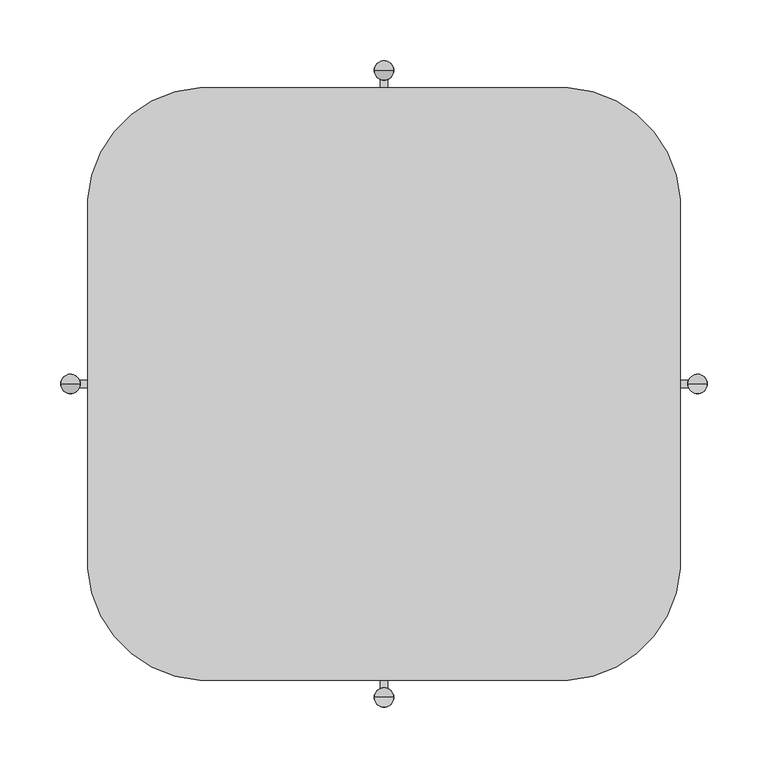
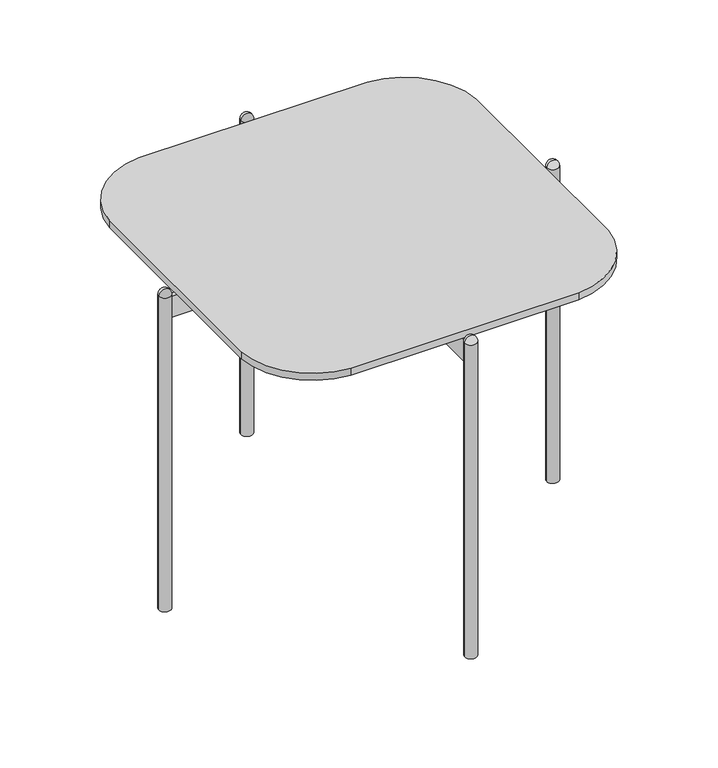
"""IFC4 building model written with IfcOpenShell, lengths in millimetres: furniture geometry, RECTANGULAR TABLE_H=45 : EI145B055050A_G."""

import ifcopenshell
import ifcopenshell.guid

model = None  # the IFC model being written
_history = None  # IfcOwnerHistory: only IFC2X3 demands one
_inside = {}  # id of a spatial element -> (the spatial element, [elements in it])
_under = {}  # id of a project, library or spatial element -> (it, [spatial elements below it])
_declared = {}  # id of a project -> (the project, [libraries it declares])
_typed = {}  # id of a type object -> (the type object, [elements of that type])
_made_of = {}  # id of a material, layer set ... -> (it, [elements and type objects made of it])


def new_model(schema):
    """Start an empty IFC model of exactly this schema.

    Asked for "IFC4X3", IfcOpenShell would pick the latest addendum, in which some entities
    have other attributes; the version numbers below select the first issue.
    IFC2X3 requires an IfcOwnerHistory on every rooted entity: one is made here for all.
    """
    global model, _history
    if schema == "IFC4X3":
        model = ifcopenshell.file(schema_version=(4, 3, 0, 0))
    else:
        model = ifcopenshell.file(schema=schema)
    _inside.clear()
    _under.clear()
    _declared.clear()
    _typed.clear()
    _made_of.clear()
    _history = None
    if model.schema == "IFC2X3":
        org = make("IfcOrganization", Name="unknown")
        user = make(
            "IfcPersonAndOrganization",
            ThePerson=make("IfcPerson", FamilyName="unknown"),
            TheOrganization=org,
        )
        app = make(
            "IfcApplication",
            ApplicationDeveloper=org,
            Version="unknown",
            ApplicationFullName="unknown",
            ApplicationIdentifier="unknown",
        )
        _history = make(
            "IfcOwnerHistory",
            OwningUser=user,
            OwningApplication=app,
            ChangeAction="ADDED",
            CreationDate=0,
        )
    return model


def make(cls, **values):
    """One entity of the class cls with the attributes given. An attribute that is None is left unset."""
    return model.create_entity(
        cls, **{name: value for name, value in values.items() if value is not None}
    )


def rooted(cls, **values):
    """An entity with a GlobalId (a new one), such as an element, a storey or a relation."""
    return make(cls, GlobalId=ifcopenshell.guid.new(), OwnerHistory=_history, **values)


def si_unit(unit_type, name, prefix=None):
    """IfcSIUnit, for example si_unit("LENGTHUNIT", "METRE", prefix="MILLI")."""
    return make("IfcSIUnit", UnitType=unit_type, Prefix=prefix, Name=name)


def assignment(units):
    """IfcUnitAssignment: the units of a project."""
    return None if units is None else make("IfcUnitAssignment", Units=units)


def point(xyz):
    """IfcCartesianPoint."""
    return None if xyz is None else make("IfcCartesianPoint", Coordinates=xyz)


def direction(xyz):
    """IfcDirection."""
    return None if xyz is None else make("IfcDirection", DirectionRatios=xyz)


def frame(location, z_axis=None, x_axis=None):
    """IfcAxis2Placement3D, a coordinate frame: its origin and axes. An axis left out is left unset."""
    return make(
        "IfcAxis2Placement3D",
        Location=point(location),
        Axis=direction(z_axis),
        RefDirection=direction(x_axis),
    )


def frame_2d(location, x_axis=None):
    """IfcAxis2Placement2D, a coordinate frame in the plane: its origin and x axis."""
    return make(
        "IfcAxis2Placement2D", Location=point(location), RefDirection=direction(x_axis)
    )


def origin():
    """The frame at (0, 0, 0) with its axes left unset."""
    return frame((0.0, 0.0, 0.0))


def origin_with_axes():
    """The frame at (0, 0, 0) with the z axis (0, 0, 1) and the x axis (1, 0, 0) written out."""
    return frame((0.0, 0.0, 0.0), z_axis=(0.0, 0.0, 1.0), x_axis=(1.0, 0.0, 0.0))


def origin_2d():
    """The frame at (0, 0) in the plane with its x axis left unset."""
    return frame_2d((0.0, 0.0))


def place(relative_to, where):
    """IfcLocalPlacement: puts the frame where relative to a parent placement (None: the world)."""
    return make(
        "IfcLocalPlacement", PlacementRelTo=relative_to, RelativePlacement=where
    )


def context(
    kind, dimensions, precision=None, world=None, true_north=None, identifier=None
):
    """IfcGeometricRepresentationContext, for example the 3D "Model" context."""
    return make(
        "IfcGeometricRepresentationContext",
        ContextIdentifier=identifier,
        ContextType=kind,
        CoordinateSpaceDimension=dimensions,
        Precision=precision,
        WorldCoordinateSystem=world,
        TrueNorth=true_north,
    )


def project(units=None, contexts=None):
    """IfcProject with its units and contexts."""
    return rooted(
        "IfcProject",
        Name="project",
        RepresentationContexts=contexts,
        UnitsInContext=assignment(units),
    )


def spatial(cls, under=None, at=None, **own):
    """A site, building, storey or space (cls), placed at a placement, below another one or the project."""
    s = rooted(cls, ObjectPlacement=at, **own)
    if under is not None:
        _under.setdefault(under.id(), (under, []))[1].append(s)
    return s


def polyline(points):
    """IfcPolyline through the points."""
    return make("IfcPolyline", Points=[point(p) for p in points])


def circle_curve(where, radius):
    """IfcCircle in the frame where."""
    return make("IfcCircle", Position=where, Radius=radius)


def ellipse_curve(where, semi_axis1, semi_axis2):
    """IfcEllipse in the frame where."""
    return make(
        "IfcEllipse", Position=where, SemiAxis1=semi_axis1, SemiAxis2=semi_axis2
    )


def trimmed(basis, trim1, trim2, sense, master):
    """IfcTrimmedCurve: the piece of a basis curve between two trims."""
    return make(
        "IfcTrimmedCurve",
        BasisCurve=basis,
        Trim1=trim1,
        Trim2=trim2,
        SenseAgreement=sense,
        MasterRepresentation=master,
    )


def segment(curve, same_sense, transition):
    """IfcCompositeCurveSegment."""
    return make(
        "IfcCompositeCurveSegment",
        Transition=transition,
        SameSense=same_sense,
        ParentCurve=curve,
    )


def composite_curve(segments, self_intersect=None):
    """IfcCompositeCurve: segments joined end to end."""
    return make("IfcCompositeCurve", Segments=segments, SelfIntersect=self_intersect)


def outline(outer, holes=None, kind="AREA"):
    """IfcArbitraryClosedProfileDef: a profile drawn as a closed curve; with holes, ...WithVoids."""
    if holes is None:
        return make("IfcArbitraryClosedProfileDef", ProfileType=kind, OuterCurve=outer)
    return make(
        "IfcArbitraryProfileDefWithVoids",
        ProfileType=kind,
        OuterCurve=outer,
        InnerCurves=holes,
    )


def extrude(swept, where, along, depth):
    """IfcExtrudedAreaSolid: the profile swept, set in the frame where, extruded along a direction by depth."""
    return make(
        "IfcExtrudedAreaSolid",
        SweptArea=swept,
        Position=where,
        ExtrudedDirection=direction(along),
        Depth=depth,
    )


def shape(context_of_items, identifier, shape_type, items):
    """IfcShapeRepresentation: the items that make up one representation, for example the "Body"."""
    return make(
        "IfcShapeRepresentation",
        ContextOfItems=context_of_items,
        RepresentationIdentifier=identifier,
        RepresentationType=shape_type,
        Items=items,
    )


def source(mapping_origin, context_of_items, identifier, shape_type, items):
    """IfcRepresentationMap: a shape defined once, which mapped items show again and again."""
    return make(
        "IfcRepresentationMap",
        MappingOrigin=mapping_origin,
        MappedRepresentation=shape(context_of_items, identifier, shape_type, items),
    )


def transform(
    local_origin,
    x_axis=None,
    y_axis=None,
    z_axis=None,
    scale=None,
    scale2=None,
    scale3=None,
    uniform=True,
):
    """IfcCartesianTransformationOperator3D, or its non-uniform kind. x_axis, y_axis, z_axis: its Axis1, 2, 3."""
    if uniform:
        return make(
            "IfcCartesianTransformationOperator3D",
            Axis1=direction(x_axis),
            Axis2=direction(y_axis),
            LocalOrigin=point(local_origin),
            Scale=scale,
            Axis3=direction(z_axis),
        )
    return make(
        "IfcCartesianTransformationOperator3DnonUniform",
        Axis1=direction(x_axis),
        Axis2=direction(y_axis),
        LocalOrigin=point(local_origin),
        Scale=scale,
        Axis3=direction(z_axis),
        Scale2=scale2,
        Scale3=scale3,
    )


def mapped(mapping_source, mapping_target):
    """IfcMappedItem: shows the shape of a source again, moved by a transform."""
    return make(
        "IfcMappedItem", MappingSource=mapping_source, MappingTarget=mapping_target
    )


def made_of(thing, what):
    """Note that an element or type object is made of a material, layer set ...; save() writes the relation."""
    if what is not None:
        _made_of.setdefault(what.id(), (what, []))[1].append(thing)
    return thing


def element(
    cls,
    number,
    at=None,
    inside=None,
    cuts=None,
    type_object=None,
    material=None,
    context=None,
    identifier="Body",
    shape_type=None,
    held_by="IfcProductDefinitionShape",
    body=None,
    shapes=None,
    **own,
):
    """One element of the class cls, such as IfcWall. Its Tag is "e" and its number.

    at: its placement. inside: the storey or other place that contains it. cuts: it is an
    opening in that element (IfcRelVoidsElement). A single representation is given by context,
    identifier, shape_type and body (its items); several are given by shapes. held_by: the class
    of the entity that holds the representations. save() writes the other relations.
    """
    e = rooted(cls, Tag="e%d" % number, ObjectPlacement=at, **own)
    if body is not None:
        shapes = [shape(context, identifier, shape_type, body)]
    if shapes is not None:
        e.Representation = make(held_by, Representations=shapes)
    if inside is not None:
        _inside.setdefault(inside.id(), (inside, []))[1].append(e)
    if cuts is not None:
        rooted(
            "IfcRelVoidsElement", RelatingBuildingElement=cuts, RelatedOpeningElement=e
        )
    if type_object is not None:
        _typed.setdefault(type_object.id(), (type_object, []))[1].append(e)
    return made_of(e, material)


def aggregate(whole, parts):
    """IfcRelAggregates: a whole, such as a stair, and the parts it consists of."""
    return rooted("IfcRelAggregates", RelatingObject=whole, RelatedObjects=parts)


def save(model, path):
    """Write the relations noted so far, then the file.

    IfcRelAggregates (storeys below a building ...), IfcRelContainedInSpatialStructure (elements
    in a storey), IfcRelDefinesByType, IfcRelAssociatesMaterial and IfcRelDeclares: one each for
    every whole, place, type object, material and project.
    """
    for whole, parts in _under.values():
        aggregate(whole, parts)
    for where, things in _inside.values():
        rooted(
            "IfcRelContainedInSpatialStructure",
            RelatedElements=things,
            RelatingStructure=where,
        )
    for kind, things in _typed.values():
        rooted("IfcRelDefinesByType", RelatedObjects=things, RelatingType=kind)
    for what, things in _made_of.values():
        rooted("IfcRelAssociatesMaterial", RelatedObjects=things, RelatingMaterial=what)
    for by, libraries in _declared.values():
        rooted("IfcRelDeclares", RelatingContext=by, RelatedDefinitions=libraries)
    model.write(path)


def plane_surface(at):
    """IfcPlane: the flat surface through the origin of the frame at, square to its z axis."""
    return make("IfcPlane", Position=at)


def revolved_surface(curve, axis_point, axis_direction):
    """IfcSurfaceOfRevolution: the curve turned about the line through axis_point along axis_direction."""
    return make(
        "IfcSurfaceOfRevolution",
        SweptCurve=make("IfcArbitraryOpenProfileDef", ProfileType="CURVE", Curve=curve),
        AxisPosition=make("IfcAxis1Placement", Location=point(axis_point), Axis=direction(axis_direction)),
    )


def advanced_brep(points, edges, surfaces, faces):
    """IfcAdvancedBrep: a solid bounded by faces that lie on surfaces and meet in shared edges.

    An edge is (start, end): straight between two places in points (the first is 0);
    or (start, end, curve); or (start, end, curve, False) where it runs against its curve.
    A face is (place in surfaces, loops), or (place, loops, False) where it looks against
    its surface's normal. A loop lists edges by number (the first is 1), with a minus sign
    where the edge is run from its end to its start. The first loop is the outer one.
    """
    corners = [point(p) for p in points]
    vertices = [make("IfcVertexPoint", VertexGeometry=c) for c in corners]
    made = []
    for start, end, *more in edges:
        made.append(
            make(
                "IfcEdgeCurve",
                EdgeStart=vertices[start],
                EdgeEnd=vertices[end],
                EdgeGeometry=more[0] if more else make("IfcPolyline", Points=[corners[start], corners[end]]),
                SameSense=more[1] if len(more) > 1 else True,
            )
        )
    hull = []
    for where, loops, *sense in faces:
        bounds = []
        for j, loop in enumerate(loops):
            ring = [make("IfcOrientedEdge", EdgeElement=made[abs(k) - 1], Orientation=k > 0) for k in loop]
            bounds.append(
                make(
                    "IfcFaceOuterBound" if j == 0 else "IfcFaceBound",
                    Bound=make("IfcEdgeLoop", EdgeList=ring),
                    Orientation=True,
                )
            )
        hull.append(make("IfcAdvancedFace", Bounds=bounds, FaceSurface=surfaces[where], SameSense=sense[0] if sense else True))
    return make("IfcAdvancedBrep", Outer=make("IfcClosedShell", CfsFaces=hull))


def furniture_c5b88fe7(model_context):
    return source(origin(), model_context, "Body", "SolidModel", [
        extrude(outline(composite_curve([segment(trimmed(circle_curve(frame_2d((-145.119559, 145.119559)), 99.0), [point((-243.8958721, 151.7708721))], [point((-151.7708721, 243.8958722))], False, "CARTESIAN"), True, "CONTINUOUS"), segment(trimmed(circle_curve(frame_2d((0.0, -2010.0000004)), 2259.0000004), [point((-151.7708721, 243.8958722))], [point((151.7708721, 243.8958722))], False, "CARTESIAN"), True, "CONTINUOUS"), segment(trimmed(circle_curve(frame_2d((145.119559, 145.119559)), 99.0000001), [point((151.7708721, 243.8958722))], [point((243.8958722, 151.7708721))], False, "CARTESIAN"), True, "CONTINUOUS"), segment(trimmed(circle_curve(frame_2d((-2010.0000004, 0.0)), 2259.0000004), [point((243.8958722, 151.7708721))], [point((243.8958722, -151.7708721))], False, "CARTESIAN"), True, "CONTINUOUS"), segment(trimmed(circle_curve(frame_2d((145.119559, -145.1195589)), 99.0), [point((243.8958722, -151.7708721))], [point((151.7708721, -243.8958721))], False, "CARTESIAN"), True, "CONTINUOUS"), segment(trimmed(circle_curve(frame_2d((0.0, 2010.0000004)), 2259.0000004), [point((151.7708721, -243.8958721))], [point((-151.7708721, -243.8958721))], False, "CARTESIAN"), True, "CONTINUOUS"), segment(trimmed(circle_curve(frame_2d((-145.1195589, -145.1195589)), 99.0), [point((-151.7708721, -243.8958721))], [point((-243.8958721, -151.7708721))], False, "CARTESIAN"), True, "CONTINUOUS"), segment(trimmed(circle_curve(frame_2d((2010.0000004, 0.0)), 2259.0000004), [point((-243.8958721, -151.7708721))], [point((-243.8958721, 151.7708721))], False, "CARTESIAN"), True, "CONTINUOUS")], self_intersect=False)), frame((0.0, 0.0, 437.6939464), z_axis=(0.0, 0.0, 1.0), x_axis=(1.0, 0.0, 0.0)), (0.0, 0.0, 1.0), 10.0),
        advanced_brep(
        [(-8.0, -257.95, 441.1666667), (8.0, -257.95, 441.1666667), (0.0, -257.95, 449.1666667), (0.0, -257.95, 441.1666667)],
        [
            (0, 1, circle_curve(frame((0.0, -257.95, 441.1666667), z_axis=(0.0, 0.0, 1.0), x_axis=(1.0, 0.0, 0.0)), 8.0)),
            (1, 2, circle_curve(frame((0.0, -257.95, 441.1666667), z_axis=(0.0, -1.0, 0.0), x_axis=(1.0, 0.0, 0.0)), 8.0)),
            (2, 0, circle_curve(frame((0.0, -257.95, 441.1666667), z_axis=(0.0, -1.0, 0.0), x_axis=(-1.0, 0.0, 0.0)), 8.0)),
            (1, 0, circle_curve(frame((0.0, -257.95, 441.1666667), z_axis=(0.0, 0.0, 1.0), x_axis=(1.0, 0.0, 0.0)), 8.0)),
            (3, 1),
            (0, 3),
        ],
        [
            revolved_surface(trimmed(ellipse_curve(frame((0.0, -257.95, 441.1666667), z_axis=(0.0, 1.0, 0.0), x_axis=(1.0, 0.0, 0.0)), 8.0, 8.0), [point((0.0, -257.95, 449.1666667))], [point((8.0, -257.95, 441.1666667))], True, "CARTESIAN"), (0.0, -257.95, 2638.4), (0.0, 0.0, -1.0)),
            plane_surface(frame((0.0, -257.95, 441.1666667), z_axis=(0.0, 0.0, -1.0), x_axis=(1.0, 0.0, 0.0))),
        ],
        [
            (0, [[1, 2, 3]]),
            (0, [[4, -3, -2]]),
            (1, [[5, -1, 6]]),
            (1, [[-6, -4, -5]]),
        ],
    ),
        advanced_brep(
        [(265.95, 0.0, 441.1666667), (249.95, 0.0, 441.1666667), (257.95, 0.0, 449.1666667), (257.95, 0.0, 441.1666667)],
        [
            (0, 1, circle_curve(frame((257.95, 0.0, 441.1666667), z_axis=(0.0, 0.0, 1.0), x_axis=(-1.0, 0.0, 0.0)), 8.0)),
            (1, 2, circle_curve(frame((257.95, 0.0, 441.1666667), z_axis=(0.0, 1.0, 0.0), x_axis=(-1.0, 0.0, 0.0)), 8.0)),
            (2, 0, circle_curve(frame((257.95, 0.0, 441.1666667), z_axis=(0.0, 1.0, 0.0), x_axis=(1.0, 0.0, 0.0)), 8.0)),
            (1, 0, circle_curve(frame((257.95, 0.0, 441.1666667), z_axis=(0.0, 0.0, 1.0), x_axis=(-1.0, 0.0, 0.0)), 8.0)),
            (3, 1),
            (0, 3),
        ],
        [
            revolved_surface(trimmed(ellipse_curve(frame((257.95, 0.0, 441.1666667), z_axis=(0.0, -1.0, 0.0), x_axis=(-1.0, 0.0, 0.0)), 8.0, 8.0), [point((257.95, 0.0, 449.1666667))], [point((249.95, 0.0, 441.1666667))], True, "CARTESIAN"), (257.95, 0.0, 2638.4), (0.0, 0.0, -1.0)),
            plane_surface(frame((257.95, 0.0, 441.1666667), z_axis=(0.0, 0.0, -1.0), x_axis=(-1.0, 0.0, 0.0))),
        ],
        [
            (0, [[1, 2, 3]]),
            (0, [[4, -3, -2]]),
            (1, [[5, -1, 6]]),
            (1, [[-6, -4, -5]]),
        ],
    ),
        advanced_brep(
        [(0.0, 257.95, 449.1666667), (8.0, 257.95, 441.1666667), (-8.0, 257.95, 441.1666667), (0.0, 257.95, 441.1666667)],
        [
            (0, 1, circle_curve(frame((0.0, 257.95, 441.1666667), z_axis=(0.0, 1.0, 0.0), x_axis=(1.0, 0.0, 0.0)), 8.0)),
            (1, 2, circle_curve(frame((0.0, 257.95, 441.1666667), z_axis=(0.0, 0.0, 1.0), x_axis=(1.0, 0.0, 0.0)), 8.0)),
            (2, 0, circle_curve(frame((0.0, 257.95, 441.1666667), z_axis=(0.0, 1.0, 0.0), x_axis=(-1.0, 0.0, 0.0)), 8.0)),
            (2, 1, circle_curve(frame((0.0, 257.95, 441.1666667), z_axis=(0.0, 0.0, 1.0), x_axis=(1.0, 0.0, 0.0)), 8.0)),
            (1, 3),
            (3, 2),
        ],
        [
            revolved_surface(trimmed(ellipse_curve(frame((0.0, 257.95, 441.1666667), z_axis=(0.0, -1.0, 0.0), x_axis=(1.0, 0.0, 0.0)), 8.0, 8.0), [point((8.0, 257.95, 441.1666667))], [point((0.0, 257.95, 449.1666667))], True, "CARTESIAN"), (0.0, 257.95, 2638.4), (0.0, 0.0, 1.0)),
            plane_surface(frame((0.0, 257.95, 441.1666667), z_axis=(0.0, 0.0, -1.0), x_axis=(1.0, 0.0, 0.0))),
        ],
        [
            (0, [[1, 2, 3]]),
            (0, [[-3, 4, -1]]),
            (1, [[-2, 5, 6]]),
            (1, [[-4, -6, -5]]),
        ],
    ),
        advanced_brep(
        [(-257.95, 0.0, 449.1666667), (-249.95, 0.0, 441.1666667), (-265.95, 0.0, 441.1666667), (-257.95, 0.0, 441.1666667)],
        [
            (0, 1, circle_curve(frame((-257.95, 0.0, 441.1666667), z_axis=(0.0, 1.0, 0.0), x_axis=(1.0, 0.0, 0.0)), 8.0)),
            (1, 2, circle_curve(frame((-257.95, 0.0, 441.1666667), z_axis=(0.0, 0.0, 1.0), x_axis=(1.0, 0.0, 0.0)), 8.0)),
            (2, 0, circle_curve(frame((-257.95, 0.0, 441.1666667), z_axis=(0.0, 1.0, 0.0), x_axis=(-1.0, 0.0, 0.0)), 8.0)),
            (2, 1, circle_curve(frame((-257.95, 0.0, 441.1666667), z_axis=(0.0, 0.0, 1.0), x_axis=(1.0, 0.0, 0.0)), 8.0)),
            (1, 3),
            (3, 2),
        ],
        [
            revolved_surface(trimmed(ellipse_curve(frame((-257.95, 0.0, 441.1666667), z_axis=(0.0, -1.0, 0.0), x_axis=(1.0, 0.0, 0.0)), 8.0, 8.0), [point((-249.95, 0.0, 441.1666667))], [point((-257.95, 0.0, 449.1666667))], True, "CARTESIAN"), (-257.95, 0.0, 2638.4), (0.0, 0.0, 1.0)),
            plane_surface(frame((-257.95, 0.0, 441.1666667), z_axis=(0.0, 0.0, -1.0), x_axis=(1.0, 0.0, 0.0))),
        ],
        [
            (0, [[1, 2, 3]]),
            (0, [[-3, 4, -1]]),
            (1, [[-2, 5, 6]]),
            (1, [[-4, -6, -5]]),
        ],
    ),
        extrude(outline(composite_curve([segment(trimmed(circle_curve(origin_2d(), 23.0), [point((3.0, 22.8035085))], [point((-3.0, 22.8035085))], True, "CARTESIAN"), True, "CONTINUOUS"), segment(polyline([(-3.0, 22.8035085), (-3.0, 250.5338015)]), True, "CONTINUOUS"), segment(trimmed(circle_curve(frame_2d((0.0, 257.95)), 8.0), [point((-3.0, 250.5338015))], [point((3.0, 250.5338015))], True, "CARTESIAN"), True, "CONTINUOUS"), segment(polyline([(3.0, 250.5338015), (3.0, 22.8035085)]), True, "CONTINUOUS")], self_intersect=False)), frame((0.0, 0.0, 407.6939464), z_axis=(0.0, 0.0, 1.0), x_axis=(1.0, 0.0, 0.0)), (0.0, 0.0, 1.0), 30.0),
        extrude(outline(composite_curve([segment(trimmed(circle_curve(origin_2d(), 23.0), [point((-3.0, -22.8035085))], [point((3.0, -22.8035085))], True, "CARTESIAN"), True, "CONTINUOUS"), segment(polyline([(3.0, -22.8035085), (3.0, -250.5338015)]), True, "CONTINUOUS"), segment(trimmed(circle_curve(frame_2d((0.0, -257.95)), 8.0), [point((3.0, -250.5338015))], [point((-3.0, -250.5338015))], True, "CARTESIAN"), True, "CONTINUOUS"), segment(polyline([(-3.0, -250.5338015), (-3.0, -22.8035085)]), True, "CONTINUOUS")], self_intersect=False)), frame((0.0, 0.0, 407.6939464), z_axis=(0.0, 0.0, 1.0), x_axis=(1.0, 0.0, 0.0)), (0.0, 0.0, 1.0), 30.0),
        extrude(outline(composite_curve([segment(trimmed(circle_curve(origin_2d(), 23.0), [point((-22.8035085, 3.0))], [point((-22.8035085, -3.0))], True, "CARTESIAN"), True, "CONTINUOUS"), segment(polyline([(-22.8035085, -3.0), (-250.5338015, -3.0)]), True, "CONTINUOUS"), segment(trimmed(circle_curve(frame_2d((-257.95, 0.0)), 8.0), [point((-250.5338015, -3.0))], [point((-249.95, 0.0))], True, "CARTESIAN"), True, "CONTINUOUS"), segment(trimmed(circle_curve(frame_2d((-257.95, 0.0)), 8.0), [point((-249.95, 0.0))], [point((-250.5338015, 3.0))], True, "CARTESIAN"), True, "CONTINUOUS"), segment(polyline([(-250.5338015, 3.0), (-22.8035085, 3.0)]), True, "CONTINUOUS")], self_intersect=False)), frame((0.0, 0.0, 407.6939464), z_axis=(0.0, 0.0, 1.0), x_axis=(1.0, 0.0, 0.0)), (0.0, 0.0, 1.0), 30.0),
        extrude(outline(composite_curve([segment(trimmed(circle_curve(origin_2d(), 23.0), [point((22.8035085, -3.0))], [point((22.8035085, 3.0))], True, "CARTESIAN"), True, "CONTINUOUS"), segment(polyline([(22.8035085, 3.0), (250.5338015, 3.0)]), True, "CONTINUOUS"), segment(trimmed(circle_curve(frame_2d((257.95, 0.0)), 8.0), [point((250.5338015, 3.0))], [point((249.95, 0.0))], True, "CARTESIAN"), True, "CONTINUOUS"), segment(trimmed(circle_curve(frame_2d((257.95, 0.0)), 8.0), [point((249.95, 0.0))], [point((250.5338015, -3.0))], True, "CARTESIAN"), True, "CONTINUOUS"), segment(polyline([(250.5338015, -3.0), (22.8035085, -3.0)]), True, "CONTINUOUS")], self_intersect=False)), frame((0.0, 0.0, 407.6939464), z_axis=(0.0, 0.0, 1.0), x_axis=(1.0, 0.0, 0.0)), (0.0, 0.0, 1.0), 30.0),
        extrude(outline(composite_curve([segment(trimmed(circle_curve(origin_2d(), 23.0), [point((-23.0, 0.0))], [point((23.0, 0.0))], False, "CARTESIAN"), True, "CONTINUOUS"), segment(trimmed(circle_curve(origin_2d(), 23.0), [point((23.0, 0.0))], [point((-23.0, 0.0))], False, "CARTESIAN"), True, "CONTINUOUS")], self_intersect=False)), frame((0.0, 0.0, 407.6939464), z_axis=(0.0, 0.0, 1.0), x_axis=(1.0, 0.0, 0.0)), (0.0, 0.0, 1.0), 30.0),
        extrude(outline(composite_curve([segment(trimmed(circle_curve(frame_2d((0.0, 257.95)), 8.0), [point((-8.0, 257.95))], [point((8.0, 257.95))], False, "CARTESIAN"), True, "CONTINUOUS"), segment(trimmed(circle_curve(frame_2d((0.0, 257.95)), 8.0), [point((8.0, 257.95))], [point((-8.0, 257.95))], False, "CARTESIAN"), True, "CONTINUOUS")], self_intersect=False)), origin_with_axes(), (0.0, 0.0, 1.0), 441.1666667),
        extrude(outline(composite_curve([segment(trimmed(circle_curve(frame_2d((-257.95, 0.0)), 8.0), [point((-265.95, 0.0))], [point((-249.95, 0.0))], False, "CARTESIAN"), True, "CONTINUOUS"), segment(trimmed(circle_curve(frame_2d((-257.95, 0.0)), 8.0), [point((-249.95, 0.0))], [point((-265.95, 0.0))], False, "CARTESIAN"), True, "CONTINUOUS")], self_intersect=False)), origin_with_axes(), (0.0, 0.0, 1.0), 441.1666667),
        extrude(outline(composite_curve([segment(trimmed(circle_curve(frame_2d((0.0, -257.95)), 8.0), [point((-8.0, -257.95))], [point((8.0, -257.95))], False, "CARTESIAN"), True, "CONTINUOUS"), segment(trimmed(circle_curve(frame_2d((0.0, -257.95)), 8.0), [point((8.0, -257.95))], [point((-8.0, -257.95))], False, "CARTESIAN"), True, "CONTINUOUS")], self_intersect=False)), origin_with_axes(), (0.0, 0.0, 1.0), 441.1666667),
        extrude(outline(composite_curve([segment(trimmed(circle_curve(frame_2d((257.95, 0.0)), 8.0), [point((249.95, 0.0))], [point((265.95, 0.0))], False, "CARTESIAN"), True, "CONTINUOUS"), segment(trimmed(circle_curve(frame_2d((257.95, 0.0)), 8.0), [point((265.95, 0.0))], [point((249.95, 0.0))], False, "CARTESIAN"), True, "CONTINUOUS")], self_intersect=False)), origin_with_axes(), (0.0, 0.0, 1.0), 441.1666667),
    ])


if __name__ == "__main__":
    model = new_model("IFC4")
    model_context = context("Model", 3, world=origin())
    ifc_project = project(units=[si_unit("LENGTHUNIT", "METRE", prefix="MILLI")], contexts=[model_context])
    site = spatial("IfcSite", under=ifc_project)
    building = spatial("IfcBuilding", under=site)
    placement = place(None, origin())
    furniture_shape = furniture_c5b88fe7(model_context)
    element("IfcFurniture", 1, ObjectType="RECTANGULAR TABLE_H=45 : EI145B055050A_G", at=placement, inside=building, context=model_context, shape_type="MappedRepresentation", body=[
        mapped(furniture_shape, transform((0.0, 0.0, 0.0), x_axis=(1.0, 0.0, 0.0), y_axis=(0.0, 1.0, 0.0), z_axis=(0.0, 0.0, 1.0))),
    ])
    save(model, "model.ifc")
